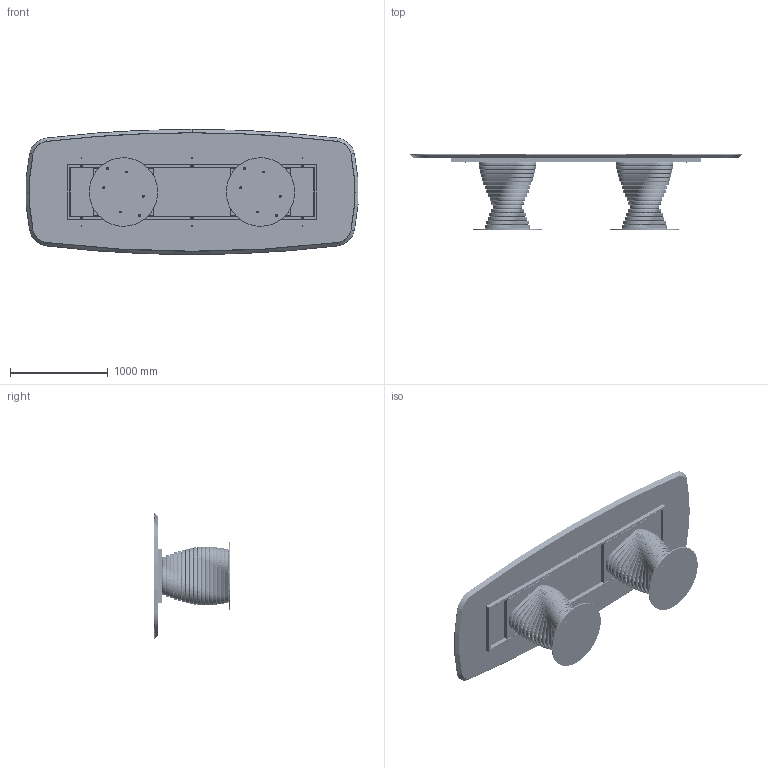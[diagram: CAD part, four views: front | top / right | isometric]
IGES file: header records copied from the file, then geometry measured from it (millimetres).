
Start section: SolidWorks IGES file using analytic representation for surfaces
Global section: file name: Y:\eforma\TECNICO\SOLIDWORKS\E-FORMA\1-TAVOLI\ROTOLO\02 parts\RO48W.IGS; native system: SolidWorks 2022; preprocessor: SolidWorks 2022; author: eforma.tech; date: 240807.152248; units: millimetre
Bounding box: 3390.78 x 770 x 1280 mm (x, y, z)
Volume: 171309846.1 mm3; surface area: 22749614.9 mm2
Topology: 182 solids, 182 shells, 3083 faces, 7252 edges, 4469 vertices
Faces by surface type: revolution 1853, plane 1230
